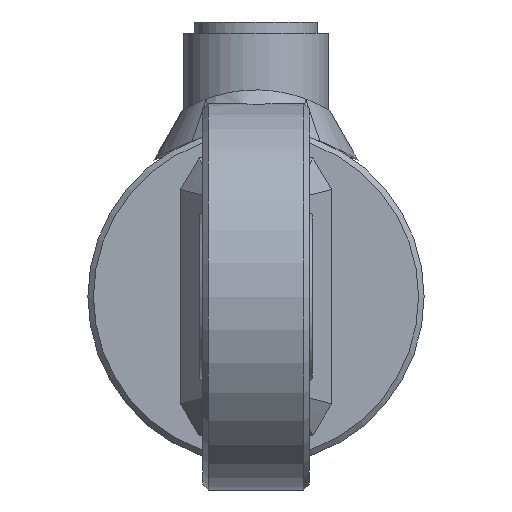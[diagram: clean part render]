
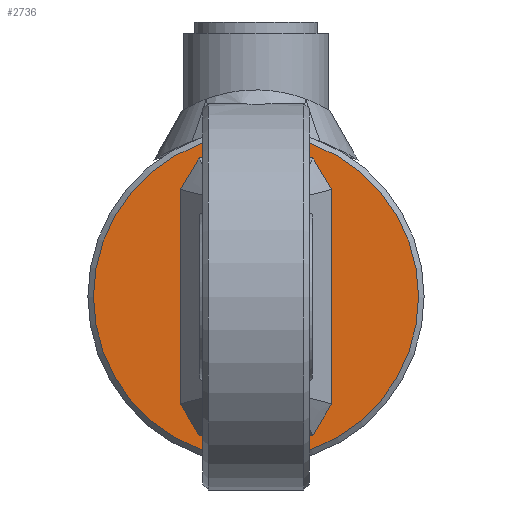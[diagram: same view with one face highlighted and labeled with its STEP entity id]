
A CAD part, left-side view. The second image highlights one B-rep face of the part: STEP entity #2736.
In plain terms, the highlighted planar face has unit normal (-1, 0, 0).
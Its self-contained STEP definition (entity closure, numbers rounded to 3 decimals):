
#2736 = ADVANCED_FACE( '', ( #9781 ), #9782, .T. );
#9781 = FACE_OUTER_BOUND( '', #11633, .T. );
#9782 = PLANE( '', #11634 );
#11633 = EDGE_LOOP( '', ( #12466 ) );
#11634 = AXIS2_PLACEMENT_3D( '', #12467, #12468, #12469 );
#12466 = ORIENTED_EDGE( '', *, *, #13675, .T. );
#12467 = CARTESIAN_POINT( '', ( -10., 0., 0. ) );
#12468 = DIRECTION( '', ( -1., 0., 0. ) );
#12469 = DIRECTION( '', ( 0., -1., 0. ) );
#13675 = EDGE_CURVE( '', #17463, #17463, #17464, .T. );
#17463 = VERTEX_POINT( '', #18094 );
#17464 = CIRCLE( '', #18095, 29. );
#18094 = CARTESIAN_POINT( '', ( -10., -29., 0. ) );
#18095 = AXIS2_PLACEMENT_3D( '', #18206, #18207, #18208 );
#18206 = CARTESIAN_POINT( '', ( -10., 0., 0. ) );
#18207 = DIRECTION( '', ( -1., 0., 0. ) );
#18208 = DIRECTION( '', ( 0., -1., 0. ) );
